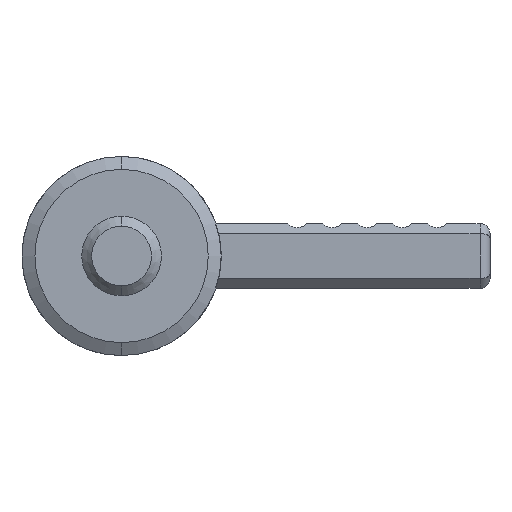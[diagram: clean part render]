
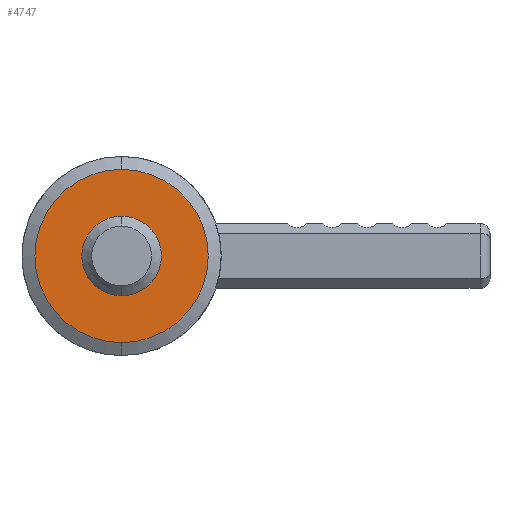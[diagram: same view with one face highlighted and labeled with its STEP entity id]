
A CAD part, front view. The second image highlights one B-rep face of the part: STEP entity #4747.
In plain terms, the highlighted planar face has unit normal (0, -1, 0).
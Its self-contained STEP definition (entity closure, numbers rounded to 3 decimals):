
#537 = VERTEX_POINT ( 'NONE', #3150 ) ;
#602 = VERTEX_POINT ( 'NONE', #3251 ) ;
#603 = EDGE_CURVE ( 'NONE', #604, #602, #3250, .T. ) ;
#604 = VERTEX_POINT ( 'NONE', #3245 ) ;
#676 = EDGE_CURVE ( 'NONE', #677, #537, #3386, .T. ) ;
#677 = VERTEX_POINT ( 'NONE', #3381 ) ;
#995 = CARTESIAN_POINT ( 'NONE',  ( 0., 0., 0. ) ) ;
#1019 = DIRECTION ( 'NONE',  ( 0., 0., -1. ) ) ;
#1020 = DIRECTION ( 'NONE',  ( 0., -1., 0. ) ) ;
#1021 = CARTESIAN_POINT ( 'NONE',  ( 0., 0., 0. ) ) ;
#1022 = AXIS2_PLACEMENT_3D ( 'NONE', #1021, #1020, #1019 ) ;
#1023 = CIRCLE ( 'NONE', #1022, 4. ) ;
#1025 = DIRECTION ( 'NONE',  ( 0., 0., 1. ) ) ;
#1026 = DIRECTION ( 'NONE',  ( 0., 1., 0. ) ) ;
#1028 = CARTESIAN_POINT ( 'NONE',  ( -4., 0., 0. ) ) ;
#1029 = AXIS2_PLACEMENT_3D ( 'NONE', #1028, #1026, #1025 ) ;
#1030 = PLANE ( 'NONE',  #1029 ) ;
#1031 = FACE_BOUND ( 'NONE', #4719, .T. ) ;
#1032 = FACE_OUTER_BOUND ( 'NONE', #4735, .T. ) ;
#1053 = DIRECTION ( 'NONE',  ( 0., 0., -1. ) ) ;
#1054 = DIRECTION ( 'NONE',  ( 0., -1., 0. ) ) ;
#1055 = AXIS2_PLACEMENT_3D ( 'NONE', #995, #1054, #1053 ) ;
#1056 = CIRCLE ( 'NONE', #1055, 8.701 ) ;
#3150 = CARTESIAN_POINT ( 'NONE',  ( 0., 0., 8.701 ) ) ;
#3245 = CARTESIAN_POINT ( 'NONE',  ( 0., 0., 4. ) ) ;
#3246 = DIRECTION ( 'NONE',  ( 0., 0., -1. ) ) ;
#3247 = DIRECTION ( 'NONE',  ( 0., -1., 0. ) ) ;
#3248 = CARTESIAN_POINT ( 'NONE',  ( 0., 0., 0. ) ) ;
#3249 = AXIS2_PLACEMENT_3D ( 'NONE', #3248, #3247, #3246 ) ;
#3250 = CIRCLE ( 'NONE', #3249, 4. ) ;
#3251 = CARTESIAN_POINT ( 'NONE',  ( 0., 0., -4. ) ) ;
#3381 = CARTESIAN_POINT ( 'NONE',  ( 0., 0., -8.701 ) ) ;
#3382 = DIRECTION ( 'NONE',  ( 0., 0., -1. ) ) ;
#3383 = DIRECTION ( 'NONE',  ( 0., -1., 0. ) ) ;
#3384 = CARTESIAN_POINT ( 'NONE',  ( 0., 0., 0. ) ) ;
#3385 = AXIS2_PLACEMENT_3D ( 'NONE', #3384, #3383, #3382 ) ;
#3386 = CIRCLE ( 'NONE', #3385, 8.701 ) ;
#4715 = EDGE_CURVE ( 'NONE', #602, #604, #1023, .T. ) ;
#4716 = ORIENTED_EDGE ( 'NONE', *, *, #603, .F. ) ;
#4719 = EDGE_LOOP ( 'NONE', ( #4720, #4716 ) ) ;
#4720 = ORIENTED_EDGE ( 'NONE', *, *, #4715, .F. ) ;
#4733 = EDGE_CURVE ( 'NONE', #537, #677, #1056, .T. ) ;
#4735 = EDGE_LOOP ( 'NONE', ( #4736, #4737 ) ) ;
#4736 = ORIENTED_EDGE ( 'NONE', *, *, #4733, .T. ) ;
#4737 = ORIENTED_EDGE ( 'NONE', *, *, #676, .T. ) ;
#4747 = ADVANCED_FACE ( 'NONE', ( #1032, #1031 ), #1030, .F. ) ;
